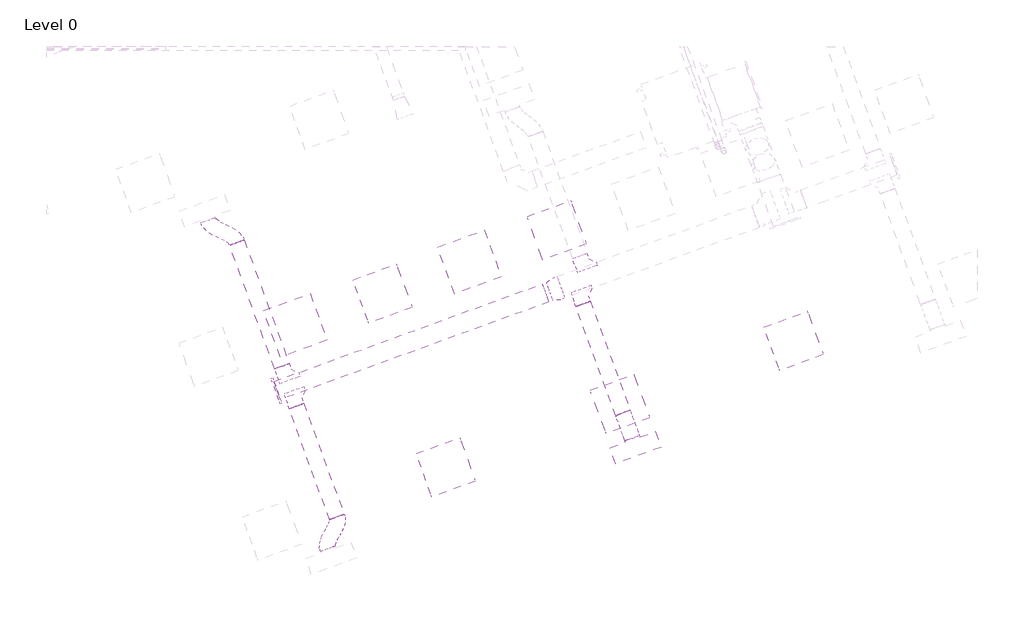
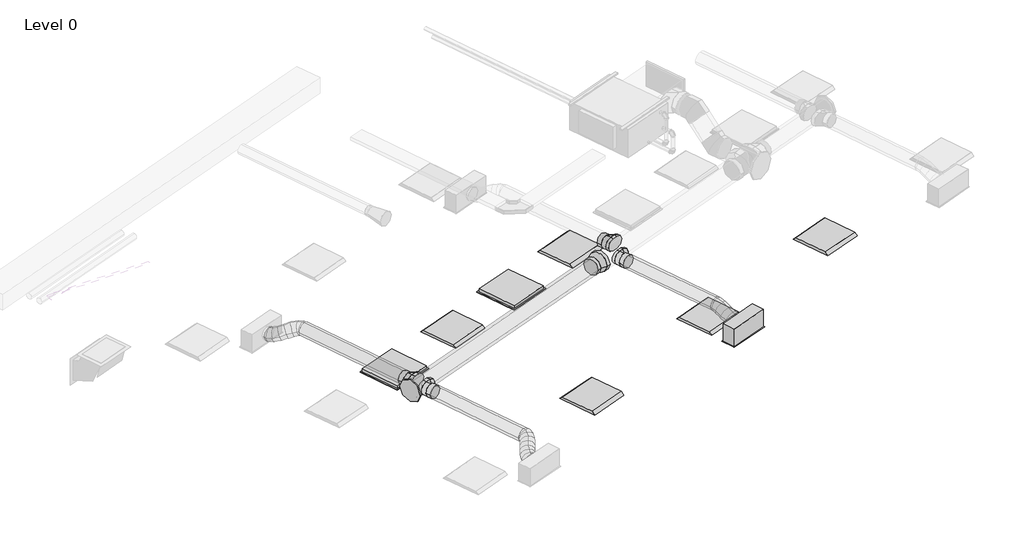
# One storey, part 20 of 34: 7 duct segments, 6 duct fittings, 5 light fixtures, 3 air terminals.
"""IFC4 building model written with IfcOpenShell, lengths in millimetres."""

from ifc_helpers import new_model, si_unit, point, frame, frame_2d, origin, place, context, project, spatial, circle_curve, ellipse_curve, trimmed, segment, composite_curve, outline, extrude, transform, mapped, element, save
from ifc_brep_helpers import plane_surface, cylinder_surface, advanced_brep
from components import return_grille_rectangular_hosted_standard_7b12617c, supply_diffuser_with_plenum_linear_slot_hosted_8e4f2f20, dw144_round_blank_end_standard_9aa061e7, dw144_round_shoe_branch_slip_joint1_standard_2_15a2edd8, dw144_round_shoe_branch_slip_joint1_standard_2_559552f4, dw144_round_shoe_branch_slip_joint1_standard_2_3a899113, dw144_round_taper_slip_joint_standard_7b2c0993, light_fixture_1c7c1157, light_fixture_b730b5ca

model = new_model("IFC4")

# Units and contexts
model_context = context("Model", 3, world=origin())
ifc_project = project(units=[si_unit("LENGTHUNIT", "METRE", prefix="MILLI")], contexts=[model_context])

# Site, building, storey
site = spatial("IfcSite", under=ifc_project)
building = spatial("IfcBuilding", under=site)
storey = spatial("IfcBuildingStorey", under=building, Name="Level 0", Elevation=0.0)

# Air terminals
placement = place(None, origin())
return_grille_rectangular_hosted_standard_shape = return_grille_rectangular_hosted_standard_7b12617c(model_context)
element("IfcAirTerminal", 1, ObjectType="Return Grille - Rectangular - Hosted : Standard", at=placement, inside=storey, context=model_context, shape_type="MappedRepresentation", body=[
    mapped(return_grille_rectangular_hosted_standard_shape, transform((43552.4694696, 7593.8200472, 2800.0), x_axis=(0.939692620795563, 0.34202014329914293, 0.0), y_axis=(0.34202014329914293, -0.939692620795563, 0.0), z_axis=(0.0, 0.0, -1.0))),
])
element("IfcAirTerminal", 2, ObjectType="Return Grille - Rectangular - Hosted : Standard", at=placement, inside=storey, context=model_context, shape_type="MappedRepresentation", body=[
    mapped(return_grille_rectangular_hosted_standard_shape, transform((41292.9785622, 6771.4326123, 2800.0), x_axis=(0.939692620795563, 0.34202014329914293, 0.0), y_axis=(0.34202014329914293, -0.939692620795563, 0.0), z_axis=(0.0, 0.0, -1.0))),
])
supply_diffuser_with_plenum_linear_slot_hosted_shape = supply_diffuser_with_plenum_linear_slot_hosted_8e4f2f20(model_context)
element("IfcAirTerminal", 3, ObjectType="Supply Diffuser with Plenum - Linear Slot - Hosted : 24\" x 8\"-200 In Inlet  4-Slot", at=placement, inside=storey, context=model_context, shape_type="MappedRepresentation", body=[
    mapped(supply_diffuser_with_plenum_linear_slot_hosted_shape, transform((45706.1610442, 5185.1663567, 2800.0), x_axis=(-0.9396926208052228, -0.34202014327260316, 0.0), y_axis=(-0.34202014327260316, 0.9396926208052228, 0.0), z_axis=(0.0, 0.0, -1.0))),
])

# Duct fittings
dw144_round_blank_end_standard_shape = dw144_round_blank_end_standard_9aa061e7(model_context)
element("IfcDuctFitting", 4, ObjectType="DW144 Round Blank End : Standard", at=placement, inside=storey, context=model_context, shape_type="MappedRepresentation", body=[
    mapped(dw144_round_blank_end_standard_shape, transform((41058.5733499, 5925.2041513, 3072.2088531), x_axis=(-0.9396926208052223, -0.3420201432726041, 0.0), y_axis=(0.3420201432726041, -0.9396926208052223, 0.0), z_axis=(0.0, 0.0, 1.0))),
])
dw144_round_shoe_branch_slip_joint1_standard_2_shape = dw144_round_shoe_branch_slip_joint1_standard_2_15a2edd8(model_context)
element("IfcDuctFitting", 5, ObjectType="DW144 Round Shoe Branch - Slip Joint1 : Standard 2", at=placement, inside=storey, context=model_context, shape_type="MappedRepresentation", body=[
    mapped(dw144_round_shoe_branch_slip_joint1_standard_2_shape, transform((41257.502944, 5864.5863807, 3072.2088531), x_axis=(0.3420201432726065, -0.9396926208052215, 0.0), y_axis=(-0.9396926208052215, -0.3420201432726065, 0.0), z_axis=(0.0, 0.0, -1.0))),
])
dw144_round_shoe_branch_slip_joint1_standard_2_2_shape = dw144_round_shoe_branch_slip_joint1_standard_2_559552f4(model_context)
element("IfcDuctFitting", 6, ObjectType="DW144 Round Shoe Branch - Slip Joint1 : Standard 2", at=placement, inside=storey, context=model_context, shape_type="MappedRepresentation", body=[
    mapped(dw144_round_shoe_branch_slip_joint1_standard_2_2_shape, transform((41171.9979082, 6099.5095359, 3072.2088531), x_axis=(-0.34202014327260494, 0.9396926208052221, 0.0), y_axis=(0.9396926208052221, 0.34202014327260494, 0.0), z_axis=(0.0, 0.0, -1.0))),
])
dw144_round_shoe_branch_slip_joint1_standard_2_3_shape = dw144_round_shoe_branch_slip_joint1_standard_2_3a899113(model_context)
element("IfcDuctFitting", 7, ObjectType="DW144 Round Shoe Branch - Slip Joint1 : Standard 2", at=placement, inside=storey, context=model_context, shape_type="MappedRepresentation", body=[
    mapped(dw144_round_shoe_branch_slip_joint1_standard_2_3_shape, transform((45034.2380322, 7531.8544227, 3072.2088531), x_axis=(-0.342020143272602, 0.9396926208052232, 0.0), y_axis=(-0.9396926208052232, -0.342020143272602, 0.0), z_axis=(0.0, 0.0, 1.0))),
])
element("IfcDuctFitting", 8, ObjectType="DW144 Round Shoe Branch - Slip Joint1 : Standard 2", at=placement, inside=storey, context=model_context, shape_type="MappedRepresentation", body=[
    mapped(dw144_round_shoe_branch_slip_joint1_standard_2_3_shape, transform((44975.9560198, 7191.3881733, 3072.2088531), x_axis=(0.34202014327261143, -0.9396926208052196, 0.0), y_axis=(-0.9396926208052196, -0.34202014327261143, 0.0), z_axis=(0.0, 0.0, -1.0))),
])
dw144_round_taper_slip_joint_standard_shape = dw144_round_taper_slip_joint_standard_7b2c0993(model_context)
element("IfcDuctFitting", 9, ObjectType="DW144 Round Taper - Slip Joint : Standard", at=placement, inside=storey, context=model_context, shape_type="MappedRepresentation", body=[
    mapped(dw144_round_taper_slip_joint_standard_shape, transform((44738.6405983, 7264.6390896, 3072.2088531), x_axis=(-0.9396926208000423, -0.3420201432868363, 0.0), y_axis=(0.3420201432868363, -0.9396926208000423, 0.0), z_axis=(0.0, 0.0, 1.0))),
])

# Duct segments
element("IfcDuctSegment", 10, ObjectType="DW144 Segmented Bend / Shoe Branch", at=placement, inside=storey, context=model_context, shape_type="SweptSolid", body=[
    extrude(outline(composite_curve([segment(trimmed(circle_curve(frame_2d((0.0, -125.0)), 125.0), [point((-125.0, -125.0))], [point((0.0, 0.0))], False, "CARTESIAN"), True, "CONTINUOUS"), segment(trimmed(circle_curve(frame_2d((0.0, -125.0)), 125.0), [point((0.0, 0.0))], [point((125.0, -125.0))], False, "CARTESIAN"), True, "CONTINUOUS"), segment(trimmed(circle_curve(frame_2d((0.0, -125.0)), 125.0), [point((125.0, -125.0))], [point((0.0, -250.0))], False, "CARTESIAN"), True, "CONTINUOUS"), segment(trimmed(circle_curve(frame_2d((0.0, -125.0)), 125.0), [point((0.0, -250.0))], [point((-125.0, -125.0))], False, "CARTESIAN"), True, "CONTINUOUS")], self_intersect=False)), frame((41058.5733499, 5925.2041513, 2947.2088531), z_axis=(0.9396926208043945, 0.34202014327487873, 0.0), x_axis=(0.34202014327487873, -0.9396926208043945, 0.0)), (0.0, 0.0, 1.0), 3702.9444966),
])
element("IfcDuctSegment", 11, ObjectType="DW144 Segmented Bend / Shoe Branch", at=placement, inside=storey, context=model_context, shape_type="SweptSolid", body=[
    extrude(outline(composite_curve([segment(trimmed(circle_curve(frame_2d((0.0, 100.0)), 100.0), [point((100.0, 100.0))], [point((0.0, 0.0))], False, "CARTESIAN"), True, "CONTINUOUS"), segment(trimmed(circle_curve(frame_2d((0.0, 100.0)), 100.0), [point((0.0, 0.0))], [point((-99.9999999, 100.0))], False, "CARTESIAN"), True, "CONTINUOUS"), segment(trimmed(circle_curve(frame_2d((0.0, 100.0)), 100.0), [point((-99.9999999, 100.0))], [point((0.0, 200.0))], False, "CARTESIAN"), True, "CONTINUOUS"), segment(trimmed(circle_curve(frame_2d((0.0, 100.0)), 100.0), [point((0.0, 200.0))], [point((100.0, 100.0))], False, "CARTESIAN"), True, "CONTINUOUS")], self_intersect=False)), frame((45542.5721876, 5634.6230463, 3172.2088531), z_axis=(-0.3420201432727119, 0.9396926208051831, 0.0), x_axis=(0.9396926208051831, 0.3420201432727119, 0.0)), (0.0, 0.0, 1.0), 1506.6748451),
])
element("IfcDuctSegment", 12, ObjectType="DW144 Segmented Bend / Shoe Branch", at=placement, inside=storey, context=model_context, shape_type="SweptSolid", body=[
    extrude(outline(composite_curve([segment(trimmed(circle_curve(frame_2d((0.0, 100.0)), 100.0), [point((100.0, 100.0))], [point((0.0, 0.0))], False, "CARTESIAN"), True, "CONTINUOUS"), segment(trimmed(circle_curve(frame_2d((0.0, 100.0)), 100.0), [point((0.0, 0.0))], [point((-100.0, 100.0))], False, "CARTESIAN"), True, "CONTINUOUS"), segment(trimmed(circle_curve(frame_2d((0.0, 100.0)), 100.0), [point((-100.0, 100.0))], [point((0.0, 200.0))], False, "CARTESIAN"), True, "CONTINUOUS"), segment(trimmed(circle_curve(frame_2d((0.0, 100.0)), 100.0), [point((0.0, 200.0))], [point((100.0, 100.0))], False, "CARTESIAN"), True, "CONTINUOUS")], self_intersect=False)), frame((41832.6696155, 4284.328938, 3172.2088531), z_axis=(-0.3420201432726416, 0.9396926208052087, 0.0), x_axis=(0.9396926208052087, 0.3420201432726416, 0.0)), (0.0, 0.0, 1.0), 1531.6748453),
])
element("IfcDuctSegment", 13, ObjectType="DW144 Segmented Bend / Shoe Branch", at=placement, inside=storey, context=model_context, shape_type="SweptSolid", body=[
    extrude(outline(composite_curve([segment(trimmed(circle_curve(frame_2d((0.0, -100.0)), 100.0), [point((-100.0, -100.0))], [point((0.0, 0.0))], False, "CARTESIAN"), True, "CONTINUOUS"), segment(trimmed(circle_curve(frame_2d((0.0, -100.0)), 100.0), [point((0.0, 0.0))], [point((100.0, -100.0))], False, "CARTESIAN"), True, "CONTINUOUS"), segment(trimmed(circle_curve(frame_2d((0.0, -100.0)), 100.0), [point((100.0, -100.0))], [point((0.0, -200.0))], False, "CARTESIAN"), True, "CONTINUOUS"), segment(trimmed(circle_curve(frame_2d((0.0, -100.0)), 100.0), [point((0.0, -200.0))], [point((-100.0, -100.0))], False, "CARTESIAN"), True, "CONTINUOUS")], self_intersect=False)), frame((41120.6948867, 6240.463429, 2972.2088531), z_axis=(-0.34202014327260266, 0.9396926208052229, 0.0), x_axis=(0.9396926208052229, 0.34202014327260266, 0.0)), (0.0, 0.0, 1.0), 1708.3251547),
])
element("IfcDuctSegment", 14, ObjectType="Flex - Round", at=placement, inside=storey, context=model_context, shape_type="AdvancedBrep", body=[
    advanced_brep(
    [(45636.5414497, 5668.8250606, 3072.2088531), (45542.5721876, 5634.6230463, 2972.2088531), (45448.6029256, 5600.4210319, 3072.2088531), (45542.5721876, 5634.6230463, 3172.2088531), (45643.456652, 5649.8256986, 3072.2088531), (45545.0000927, 5627.952432, 2972.2088531), (45455.5181278, 5581.4216699, 3072.2088531), (45553.9746871, 5603.2949365, 3172.2088531), (45756.0439098, 5340.4947498, 2954.4), (45662.0746478, 5306.2927355, 3054.4), (45568.1053857, 5272.0907211, 2954.4), (45662.0746478, 5306.2927355, 2854.4), (45667.0367565, 5585.039894, 3053.8012198), (45561.2417272, 5583.3289079, 2959.5299419), (45479.0982323, 5516.6358653, 3053.8012198), (45584.8932616, 5518.3468513, 3148.0724978), (45696.2926798, 5504.6599052, 3013.3044266), (45587.6883456, 5510.6674209, 2922.9218599), (45508.3541556, 5436.2558765, 3013.3044266), (45616.9584898, 5430.2483608, 3103.6869932), (45725.5486031, 5424.2799164, 2972.8076333), (45619.7535738, 5422.5689304, 2878.5363553), (45537.610079, 5355.8758878, 2972.8076333), (45643.4051082, 5357.5868738, 3067.0789113), (45749.1287076, 5359.4941118, 2954.4), (45650.6721483, 5337.6208453, 2854.4), (45561.1901834, 5291.0900832, 2954.4), (45659.6467427, 5312.9633498, 3054.4)],
    [
        (0, 1, circle_curve(frame((45542.5721876, 5634.6230463, 3072.2088531), z_axis=(-0.3420201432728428, 0.9396926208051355, 0.0), x_axis=(0.9396926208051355, 0.3420201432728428, 0.0)), 100.0)),
        (1, 2, circle_curve(frame((45542.5721876, 5634.6230463, 3072.2088531), z_axis=(-0.3420201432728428, 0.9396926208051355, 0.0), x_axis=(0.9396926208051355, 0.3420201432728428, 0.0)), 100.0)),
        (2, 3, circle_curve(frame((45542.5721876, 5634.6230463, 3072.2088531), z_axis=(-0.3420201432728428, 0.9396926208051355, 0.0), x_axis=(0.9396926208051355, 0.3420201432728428, 0.0)), 100.0)),
        (3, 0, circle_curve(frame((45542.5721876, 5634.6230463, 3072.2088531), z_axis=(-0.3420201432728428, 0.9396926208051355, 0.0), x_axis=(0.9396926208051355, 0.3420201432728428, 0.0)), 100.0)),
        (0, 4),
        (4, 5, ellipse_curve(frame((45549.4873899, 5615.6236842, 3072.2088531), z_axis=(-0.33911394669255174, 0.9317079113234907, 0.1300849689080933), x_axis=(-0.04449167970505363, 0.12223988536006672, -0.9915028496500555)), 100.8569971, 100.0)),
        (5, 1),
        (5, 6, ellipse_curve(frame((45549.4873899, 5615.6236842, 3072.2088531), z_axis=(-0.33911394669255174, 0.9317079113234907, 0.1300849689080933), x_axis=(-0.04449167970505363, 0.12223988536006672, -0.9915028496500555)), 100.8569971, 100.0)),
        (6, 2),
        (6, 7, ellipse_curve(frame((45549.4873899, 5615.6236842, 3072.2088531), z_axis=(-0.33911394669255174, 0.9317079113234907, 0.1300849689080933), x_axis=(-0.04449167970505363, 0.12223988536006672, -0.9915028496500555)), 100.8569971, 100.0)),
        (7, 3),
        (7, 4, ellipse_curve(frame((45549.4873899, 5615.6236842, 3072.2088531), z_axis=(-0.33911394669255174, 0.9317079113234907, 0.1300849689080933), x_axis=(-0.04449167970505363, 0.12223988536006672, -0.9915028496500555)), 100.8569971, 100.0)),
        (8, 9, circle_curve(frame((45662.0746478, 5306.2927355, 2954.4), z_axis=(0.3420201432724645, -0.9396926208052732, 0.0), x_axis=(0.9396926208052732, 0.3420201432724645, 0.0)), 100.0)),
        (9, 10, circle_curve(frame((45662.0746478, 5306.2927355, 2954.4), z_axis=(0.3420201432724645, -0.9396926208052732, 0.0), x_axis=(0.9396926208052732, 0.3420201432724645, 0.0)), 100.0)),
        (10, 11, circle_curve(frame((45662.0746478, 5306.2927355, 2954.4), z_axis=(0.3420201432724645, -0.9396926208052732, 0.0), x_axis=(0.9396926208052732, 0.3420201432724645, 0.0)), 100.0)),
        (11, 8, circle_curve(frame((45662.0746478, 5306.2927355, 2954.4), z_axis=(0.3420201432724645, -0.9396926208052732, 0.0), x_axis=(0.9396926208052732, 0.3420201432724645, 0.0)), 100.0)),
        (4, 12),
        (12, 13, ellipse_curve(frame((45573.0674944, 5550.8378796, 3053.8012198), z_axis=(-0.32110349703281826, 0.8822246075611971, 0.34434326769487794), x_axis=(-0.1177723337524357, 0.32357682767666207, -0.9388438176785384)), 100.4120986, 100.0)),
        (13, 5),
        (13, 14, ellipse_curve(frame((45573.0674944, 5550.8378796, 3053.8012198), z_axis=(-0.32110349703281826, 0.8822246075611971, 0.34434326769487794), x_axis=(-0.1177723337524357, 0.32357682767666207, -0.9388438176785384)), 100.4120986, 100.0)),
        (14, 6),
        (14, 15, ellipse_curve(frame((45573.0674944, 5550.8378796, 3053.8012198), z_axis=(-0.32110349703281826, 0.8822246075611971, 0.34434326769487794), x_axis=(-0.1177723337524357, 0.32357682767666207, -0.9388438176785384)), 100.4120986, 100.0)),
        (15, 7),
        (15, 12, ellipse_curve(frame((45573.0674944, 5550.8378796, 3053.8012198), z_axis=(-0.32110349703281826, 0.8822246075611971, 0.34434326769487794), x_axis=(-0.1177723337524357, 0.32357682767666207, -0.9388438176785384)), 100.4120986, 100.0)),
        (12, 16),
        (16, 17, circle_curve(frame((45602.3234177, 5470.4578909, 3013.3044266), z_axis=(-0.30912658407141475, 0.8493183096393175, 0.42790088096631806), x_axis=(0.9396926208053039, 0.3420201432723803, 0.0)), 100.0)),
        (17, 13),
        (17, 18, circle_curve(frame((45602.3234177, 5470.4578909, 3013.3044266), z_axis=(-0.30912658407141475, 0.8493183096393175, 0.42790088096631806), x_axis=(0.9396926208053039, 0.3420201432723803, 0.0)), 100.0)),
        (18, 14),
        (18, 19, circle_curve(frame((45602.3234177, 5470.4578909, 3013.3044266), z_axis=(-0.30912658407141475, 0.8493183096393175, 0.42790088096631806), x_axis=(0.9396926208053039, 0.3420201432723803, 0.0)), 100.0)),
        (19, 15),
        (19, 16, circle_curve(frame((45602.3234177, 5470.4578909, 3013.3044266), z_axis=(-0.30912658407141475, 0.8493183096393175, 0.42790088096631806), x_axis=(0.9396926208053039, 0.3420201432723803, 0.0)), 100.0)),
        (16, 20),
        (20, 21, ellipse_curve(frame((45631.579341, 5390.0779021, 2972.8076333), z_axis=(-0.3211034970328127, 0.8822246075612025, 0.34434326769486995), x_axis=(0.11777233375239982, -0.3235768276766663, 0.9388438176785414)), 100.4120986, 100.0)),
        (21, 17),
        (21, 22, ellipse_curve(frame((45631.579341, 5390.0779021, 2972.8076333), z_axis=(-0.3211034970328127, 0.8822246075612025, 0.34434326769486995), x_axis=(0.11777233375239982, -0.3235768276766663, 0.9388438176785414)), 100.4120986, 100.0)),
        (22, 18),
        (22, 23, ellipse_curve(frame((45631.579341, 5390.0779021, 2972.8076333), z_axis=(-0.3211034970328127, 0.8822246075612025, 0.34434326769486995), x_axis=(0.11777233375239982, -0.3235768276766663, 0.9388438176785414)), 100.4120986, 100.0)),
        (23, 19),
        (23, 20, ellipse_curve(frame((45631.579341, 5390.0779021, 2972.8076333), z_axis=(-0.3211034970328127, 0.8822246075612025, 0.34434326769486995), x_axis=(0.11777233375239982, -0.3235768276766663, 0.9388438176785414)), 100.4120986, 100.0)),
        (20, 24),
        (24, 25, ellipse_curve(frame((45655.1594455, 5325.2920975, 2954.4), z_axis=(-0.33911394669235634, 0.9317079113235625, 0.13008496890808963), x_axis=(0.04449167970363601, -0.12223988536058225, 0.9915028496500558)), 100.8569971, 100.0)),
        (25, 21),
        (25, 26, ellipse_curve(frame((45655.1594455, 5325.2920975, 2954.4), z_axis=(-0.33911394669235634, 0.9317079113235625, 0.13008496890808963), x_axis=(0.04449167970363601, -0.12223988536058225, 0.9915028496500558)), 100.8569971, 100.0)),
        (26, 22),
        (26, 27, ellipse_curve(frame((45655.1594455, 5325.2920975, 2954.4), z_axis=(-0.33911394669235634, 0.9317079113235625, 0.13008496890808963), x_axis=(0.04449167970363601, -0.12223988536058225, 0.9915028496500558)), 100.8569971, 100.0)),
        (27, 23),
        (27, 24, ellipse_curve(frame((45655.1594455, 5325.2920975, 2954.4), z_axis=(-0.33911394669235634, 0.9317079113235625, 0.13008496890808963), x_axis=(0.04449167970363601, -0.12223988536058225, 0.9915028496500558)), 100.8569971, 100.0)),
        (24, 8),
        (11, 25),
        (10, 26),
        (9, 27),
    ],
    [
        plane_surface(frame((45542.5721876, 5634.6230463, 2972.2088531), z_axis=(-0.34202014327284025, 0.9396926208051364, 0.0), x_axis=(0.9396926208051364, 0.34202014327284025, 0.0))),
        cylinder_surface(frame((45542.5721876, 5634.6230463, 3072.2088531), z_axis=(-0.3420201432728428, 0.9396926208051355, 0.0), x_axis=(0.9396926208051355, 0.3420201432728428, 0.0)), 100.0),
        plane_surface(frame((45662.0746478, 5306.2927355, 2854.4), z_axis=(0.34202014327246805, -0.9396926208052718, 0.0), x_axis=(0.9396926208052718, 0.34202014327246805, 0.0))),
        cylinder_surface(frame((45549.4873899, 5615.6236842, 3072.2088531), z_axis=(-0.33044474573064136, 0.9078894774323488, 0.25795923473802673), x_axis=(0.9396926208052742, 0.3420201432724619, 0.0)), 100.0),
        cylinder_surface(frame((45573.0674944, 5550.8378796, 3053.8012198), z_axis=(-0.30912658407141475, 0.8493183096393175, 0.42790088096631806), x_axis=(0.9396926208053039, 0.3420201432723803, 0.0)), 100.0),
        cylinder_surface(frame((45602.3234177, 5470.4578909, 3013.3044266), z_axis=(-0.3091265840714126, 0.8493183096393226, 0.4279008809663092), x_axis=(0.9396926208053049, 0.342020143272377, 0.0)), 100.0),
        cylinder_surface(frame((45631.579341, 5390.0779021, 2972.8076333), z_axis=(-0.33044474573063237, 0.9078894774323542, 0.25795923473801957), x_axis=(0.9396926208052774, 0.34202014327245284, 0.0)), 100.0),
        cylinder_surface(frame((45655.1594455, 5325.2920975, 2954.4), z_axis=(-0.3420201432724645, 0.9396926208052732, 0.0), x_axis=(0.9396926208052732, 0.3420201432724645, 0.0)), 100.0),
    ],
    [
        (0, [[1, 2, 3, 4]]),
        (1, [[-1, 5, 6, 7]]),
        (1, [[-2, -7, 8, 9]]),
        (1, [[-3, -9, 10, 11]]),
        (1, [[-4, -11, 12, -5]]),
        (2, [[13, 14, 15, 16]]),
        (3, [[-6, 17, 18, 19]]),
        (3, [[-8, -19, 20, 21]]),
        (3, [[-10, -21, 22, 23]]),
        (3, [[-12, -23, 24, -17]]),
        (4, [[-18, 25, 26, 27]]),
        (4, [[-20, -27, 28, 29]]),
        (4, [[-22, -29, 30, 31]]),
        (4, [[-24, -31, 32, -25]]),
        (5, [[-26, 33, 34, 35]]),
        (5, [[-28, -35, 36, 37]]),
        (5, [[-30, -37, 38, 39]]),
        (5, [[-32, -39, 40, -33]]),
        (6, [[-34, 41, 42, 43]]),
        (6, [[-36, -43, 44, 45]]),
        (6, [[-38, -45, 46, 47]]),
        (6, [[-40, -47, 48, -41]]),
        (7, [[-42, 49, -16, 50]]),
        (7, [[-44, -50, -15, 51]]),
        (7, [[-46, -51, -14, 52]]),
        (7, [[-48, -52, -13, -49]]),
    ],
),
])
element("IfcDuctSegment", 15, ObjectType="Flex - Round", at=placement, inside=storey, context=model_context, shape_type="AdvancedBrep", body=[
    advanced_brep(
    [(41926.6388776, 4318.5309523, 3072.2088531), (41832.6696155, 4284.328938, 2972.2088531), (41738.7003534, 4250.1269236, 3072.2088531), (41832.6696155, 4284.328938, 3172.2088531), (41941.143002, 4278.6811981, 3072.2088531), (41837.6192575, 4270.7299085, 2972.2088531), (41740.1829281, 4246.0535833, 3072.2088531), (41843.7066726, 4254.0048729, 3172.2088531), (41809.3349025, 3904.0101478, 2954.4), (41715.3656405, 3869.8081335, 3054.4), (41621.3963784, 3835.6061192, 2954.4), (41715.3656405, 3869.8081335, 2854.4), (41939.1022554, 4210.6437498, 3060.4338405), (41836.9135433, 4247.201759, 2968.1369153), (41739.9616616, 4238.6766735, 3070.9321561), (41842.1503737, 4202.1186642, 3163.2290813), (41916.7633672, 4131.704107, 3037.9988054), (41822.7649647, 4197.2044749, 2953.927441), (41728.7851284, 4199.1818007, 3059.7075189), (41822.7835309, 4133.6814328, 3143.7788832), (41880.4675155, 4062.5309182, 3010.9941094), (41794.3438119, 4143.0390077, 2932.7816474), (41703.2214942, 4150.4622362, 3040.6877649), (41789.3451977, 4069.9541467, 3118.9002269), (41844.8137618, 4003.6748353, 2985.9210882), (41758.6900582, 4084.1829248, 2907.7086262), (41667.5677405, 4091.6061533, 3015.6147437), (41753.691444, 4011.0980638, 3093.8272057), (41819.2501276, 3954.9552708, 2966.9013343), (41725.2517251, 4020.4556387, 2882.8299699), (41631.2718888, 4022.4329645, 2988.6100477), (41725.2702913, 3956.9325966, 3072.6814121), (41808.0735943, 3915.460398, 2955.676697), (41705.8848823, 3952.0184073, 2863.3797719), (41608.9330006, 3943.4933217, 2966.1750127), (41711.1217127, 3906.9353124, 3058.4719378), (41807.8523279, 3908.0834882, 2954.4), (41704.3285834, 3900.1321986, 2854.4), (41606.892254, 3875.4558734, 2954.4), (41710.4159985, 3883.407163, 3054.4)],
    [
        (0, 1, circle_curve(frame((41832.6696155, 4284.328938, 3072.2088531), z_axis=(-0.34202014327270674, 0.939692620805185, 0.0), x_axis=(0.939692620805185, 0.34202014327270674, 0.0)), 100.0)),
        (1, 2, circle_curve(frame((41832.6696155, 4284.328938, 3072.2088531), z_axis=(-0.34202014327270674, 0.939692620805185, 0.0), x_axis=(0.939692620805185, 0.34202014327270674, 0.0)), 100.0)),
        (2, 3, circle_curve(frame((41832.6696155, 4284.328938, 3072.2088531), z_axis=(-0.34202014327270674, 0.939692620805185, 0.0), x_axis=(0.939692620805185, 0.34202014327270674, 0.0)), 100.0)),
        (3, 0, circle_curve(frame((41832.6696155, 4284.328938, 3072.2088531), z_axis=(-0.34202014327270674, 0.939692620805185, 0.0), x_axis=(0.939692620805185, 0.34202014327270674, 0.0)), 100.0)),
        (0, 4),
        (4, 5, ellipse_curve(frame((41840.662965, 4262.3673907, 3072.2088531), z_axis=(-0.15965125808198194, 0.9833243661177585, 0.08708999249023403), x_axis=(-0.9034059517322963, -0.10996973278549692, -0.4144446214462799)), 102.1840203, 100.0)),
        (5, 1),
        (5, 6, ellipse_curve(frame((41840.662965, 4262.3673907, 3072.2088531), z_axis=(-0.15965125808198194, 0.9833243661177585, 0.08708999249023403), x_axis=(-0.9034059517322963, -0.10996973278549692, -0.4144446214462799)), 102.1840203, 100.0)),
        (6, 2),
        (6, 7, ellipse_curve(frame((41840.662965, 4262.3673907, 3072.2088531), z_axis=(-0.15965125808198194, 0.9833243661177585, 0.08708999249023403), x_axis=(-0.9034059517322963, -0.10996973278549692, -0.4144446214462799)), 102.1840203, 100.0)),
        (7, 3),
        (7, 4, ellipse_curve(frame((41840.662965, 4262.3673907, 3072.2088531), z_axis=(-0.15965125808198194, 0.9833243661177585, 0.08708999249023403), x_axis=(-0.9034059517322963, -0.10996973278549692, -0.4144446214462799)), 102.1840203, 100.0)),
        (8, 9, circle_curve(frame((41715.3656405, 3869.8081335, 2954.4), z_axis=(0.34202014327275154, -0.9396926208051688, 0.0), x_axis=(0.9396926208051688, 0.34202014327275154, 0.0)), 100.0)),
        (9, 10, circle_curve(frame((41715.3656405, 3869.8081335, 2954.4), z_axis=(0.34202014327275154, -0.9396926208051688, 0.0), x_axis=(0.9396926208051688, 0.34202014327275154, 0.0)), 100.0)),
        (10, 11, circle_curve(frame((41715.3656405, 3869.8081335, 2954.4), z_axis=(0.34202014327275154, -0.9396926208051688, 0.0), x_axis=(0.9396926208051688, 0.34202014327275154, 0.0)), 100.0)),
        (11, 8, circle_curve(frame((41715.3656405, 3869.8081335, 2954.4), z_axis=(0.34202014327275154, -0.9396926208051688, 0.0), x_axis=(0.9396926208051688, 0.34202014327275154, 0.0)), 100.0)),
        (4, 12),
        (12, 13, ellipse_curve(frame((41839.5319585, 4224.6602116, 3065.6829983), z_axis=(0.1473216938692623, 0.9645524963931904, 0.2189401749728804), x_axis=(-0.9054982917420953, 0.2205870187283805, -0.3625109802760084)), 100.8388548, 100.0)),
        (13, 5),
        (13, 14, ellipse_curve(frame((41839.5319585, 4224.6602116, 3065.6829983), z_axis=(0.1473216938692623, 0.9645524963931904, 0.2189401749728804), x_axis=(-0.9054982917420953, 0.2205870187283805, -0.3625109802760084)), 100.8388548, 100.0)),
        (14, 6),
        (14, 15, ellipse_curve(frame((41839.5319585, 4224.6602116, 3065.6829983), z_axis=(0.1473216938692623, 0.9645524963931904, 0.2189401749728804), x_axis=(-0.9054982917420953, 0.2205870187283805, -0.3625109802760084)), 100.8388548, 100.0)),
        (15, 7),
        (15, 12, ellipse_curve(frame((41839.5319585, 4224.6602116, 3065.6829983), z_axis=(0.1473216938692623, 0.9645524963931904, 0.2189401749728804), x_axis=(-0.9054982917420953, 0.2205870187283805, -0.3625109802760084)), 100.8388548, 100.0)),
        (12, 16),
        (16, 17, ellipse_curve(frame((41822.7742478, 4165.4429538, 3048.8531621), z_axis=(0.35281242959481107, 0.8873517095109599, 0.2968675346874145), x_axis=(-0.846849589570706, 0.43775232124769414, -0.3020243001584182)), 100.5473433, 100.0)),
        (17, 13),
        (17, 18, ellipse_curve(frame((41822.7742478, 4165.4429538, 3048.8531621), z_axis=(0.35281242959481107, 0.8873517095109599, 0.2968675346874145), x_axis=(-0.846849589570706, 0.43775232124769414, -0.3020243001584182)), 100.5473433, 100.0)),
        (18, 14),
        (18, 19, ellipse_curve(frame((41822.7742478, 4165.4429538, 3048.8531621), z_axis=(0.35281242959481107, 0.8873517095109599, 0.2968675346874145), x_axis=(-0.846849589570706, 0.43775232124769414, -0.3020243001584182)), 100.5473433, 100.0)),
        (19, 15),
        (19, 16, ellipse_curve(frame((41822.7742478, 4165.4429538, 3048.8531621), z_axis=(0.35281242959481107, 0.8873517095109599, 0.2968675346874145), x_axis=(-0.846849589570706, 0.43775232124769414, -0.3020243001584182)), 100.5473433, 100.0)),
        (16, 20),
        (20, 21, ellipse_curve(frame((41791.8445048, 4106.4965772, 3025.8409372), z_axis=(0.46318514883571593, 0.820636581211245, 0.33468659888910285), x_axis=(-0.7918903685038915, 0.5527890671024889, -0.25948774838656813)), 100.045353, 100.0)),
        (21, 17),
        (21, 22, ellipse_curve(frame((41791.8445048, 4106.4965772, 3025.8409372), z_axis=(0.46318514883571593, 0.820636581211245, 0.33468659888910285), x_axis=(-0.7918903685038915, 0.5527890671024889, -0.25948774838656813)), 100.045353, 100.0)),
        (22, 18),
        (22, 23, ellipse_curve(frame((41791.8445048, 4106.4965772, 3025.8409372), z_axis=(0.46318514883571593, 0.820636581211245, 0.33468659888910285), x_axis=(-0.7918903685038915, 0.5527890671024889, -0.25948774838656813)), 100.045353, 100.0)),
        (23, 19),
        (23, 20, ellipse_curve(frame((41791.8445048, 4106.4965772, 3025.8409372), z_axis=(0.46318514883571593, 0.820636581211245, 0.33468659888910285), x_axis=(-0.7918903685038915, 0.5527890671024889, -0.25948774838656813)), 100.045353, 100.0)),
        (20, 24),
        (24, 25, ellipse_curve(frame((41756.1907511, 4047.6404943, 3000.767916), z_axis=(0.4631851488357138, 0.8206365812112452, 0.3346865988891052), x_axis=(0.7918903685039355, -0.5527890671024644, 0.2594877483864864)), 100.045353, 100.0)),
        (25, 21),
        (25, 26, ellipse_curve(frame((41756.1907511, 4047.6404943, 3000.767916), z_axis=(0.4631851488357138, 0.8206365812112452, 0.3346865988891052), x_axis=(0.7918903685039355, -0.5527890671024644, 0.2594877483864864)), 100.045353, 100.0)),
        (26, 22),
        (26, 27, ellipse_curve(frame((41756.1907511, 4047.6404943, 3000.767916), z_axis=(0.4631851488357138, 0.8206365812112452, 0.3346865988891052), x_axis=(0.7918903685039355, -0.5527890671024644, 0.2594877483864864)), 100.045353, 100.0)),
        (27, 23),
        (27, 24, ellipse_curve(frame((41756.1907511, 4047.6404943, 3000.767916), z_axis=(0.4631851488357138, 0.8206365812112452, 0.3346865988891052), x_axis=(0.7918903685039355, -0.5527890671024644, 0.2594877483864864)), 100.045353, 100.0)),
        (24, 28),
        (28, 29, ellipse_curve(frame((41725.2610082, 3988.6941176, 2977.755691), z_axis=(0.35281242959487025, 0.887351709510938, 0.29686753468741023), x_axis=(0.8468495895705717, -0.4377523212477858, 0.3020243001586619)), 100.5473433, 100.0)),
        (29, 25),
        (29, 30, ellipse_curve(frame((41725.2610082, 3988.6941176, 2977.755691), z_axis=(0.35281242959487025, 0.887351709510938, 0.29686753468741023), x_axis=(0.8468495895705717, -0.4377523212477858, 0.3020243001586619)), 100.5473433, 100.0)),
        (30, 26),
        (30, 31, ellipse_curve(frame((41725.2610082, 3988.6941176, 2977.755691), z_axis=(0.35281242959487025, 0.887351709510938, 0.29686753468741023), x_axis=(0.8468495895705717, -0.4377523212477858, 0.3020243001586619)), 100.5473433, 100.0)),
        (31, 27),
        (31, 28, ellipse_curve(frame((41725.2610082, 3988.6941176, 2977.755691), z_axis=(0.35281242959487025, 0.887351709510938, 0.29686753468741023), x_axis=(0.8468495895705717, -0.4377523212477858, 0.3020243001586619)), 100.5473433, 100.0)),
        (28, 32),
        (32, 33, ellipse_curve(frame((41708.5032975, 3929.4768599, 2960.9258548), z_axis=(0.14732169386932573, 0.964552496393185, 0.21894017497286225), x_axis=(0.9054982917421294, -0.22058701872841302, 0.36251098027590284)), 100.8388548, 100.0)),
        (33, 29),
        (33, 34, ellipse_curve(frame((41708.5032975, 3929.4768599, 2960.9258548), z_axis=(0.14732169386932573, 0.964552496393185, 0.21894017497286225), x_axis=(0.9054982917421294, -0.22058701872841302, 0.36251098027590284)), 100.8388548, 100.0)),
        (34, 30),
        (34, 35, ellipse_curve(frame((41708.5032975, 3929.4768599, 2960.9258548), z_axis=(0.14732169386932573, 0.964552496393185, 0.21894017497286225), x_axis=(0.9054982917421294, -0.22058701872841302, 0.36251098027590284)), 100.8388548, 100.0)),
        (35, 31),
        (35, 32, ellipse_curve(frame((41708.5032975, 3929.4768599, 2960.9258548), z_axis=(0.14732169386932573, 0.964552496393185, 0.21894017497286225), x_axis=(0.9054982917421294, -0.22058701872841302, 0.36251098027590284)), 100.8388548, 100.0)),
        (32, 36),
        (36, 37, ellipse_curve(frame((41707.372291, 3891.7696808, 2954.4), z_axis=(-0.15965125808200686, 0.9833243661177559, 0.08708999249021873), x_axis=(0.9034059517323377, 0.10996973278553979, 0.4144446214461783)), 102.1840203, 100.0)),
        (37, 33),
        (37, 38, ellipse_curve(frame((41707.372291, 3891.7696808, 2954.4), z_axis=(-0.15965125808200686, 0.9833243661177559, 0.08708999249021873), x_axis=(0.9034059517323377, 0.10996973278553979, 0.4144446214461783)), 102.1840203, 100.0)),
        (38, 34),
        (38, 39, ellipse_curve(frame((41707.372291, 3891.7696808, 2954.4), z_axis=(-0.15965125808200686, 0.9833243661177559, 0.08708999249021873), x_axis=(0.9034059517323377, 0.10996973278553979, 0.4144446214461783)), 102.1840203, 100.0)),
        (39, 35),
        (39, 36, ellipse_curve(frame((41707.372291, 3891.7696808, 2954.4), z_axis=(-0.15965125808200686, 0.9833243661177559, 0.08708999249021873), x_axis=(0.9034059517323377, 0.10996973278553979, 0.4144446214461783)), 102.1840203, 100.0)),
        (36, 8),
        (11, 37),
        (10, 38),
        (9, 39),
    ],
    [
        plane_surface(frame((41832.6696155, 4284.328938, 2972.2088531), z_axis=(-0.3420201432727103, 0.9396926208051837, 0.0), x_axis=(0.9396926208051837, 0.3420201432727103, 0.0))),
        cylinder_surface(frame((41832.6696155, 4284.328938, 3072.2088531), z_axis=(-0.34202014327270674, 0.939692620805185, 0.0), x_axis=(0.939692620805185, 0.34202014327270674, 0.0)), 100.0),
        plane_surface(frame((41715.3656405, 3869.8081335, 2854.4), z_axis=(0.3420201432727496, -0.9396926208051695, 0.0), x_axis=(0.9396926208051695, 0.3420201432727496, 0.0))),
        cylinder_surface(frame((41840.662965, 4262.3673907, 3072.2088531), z_axis=(0.02954220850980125, 0.9849221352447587, 0.17045716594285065), x_axis=(0.99917664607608, -0.024353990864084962, -0.03244862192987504)), 100.0),
        cylinder_surface(frame((41839.5319585, 4224.6602116, 3065.6829983), z_axis=(0.2626501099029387, 0.9281350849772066, 0.26378055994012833), x_axis=(0.9648196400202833, -0.24929802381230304, -0.08350782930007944)), 100.0),
        cylinder_surface(frame((41822.7742478, 4165.4429538, 3048.8531621), z_axis=(0.43913358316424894, 0.8369074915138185, 0.32672243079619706), x_axis=(0.8982124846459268, -0.4168203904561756, -0.13955319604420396)), 100.0),
        cylinder_surface(frame((41791.8445048, 4106.4965772, 3025.8409372), z_axis=(0.48681676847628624, 0.8036216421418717, 0.342347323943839), x_axis=(0.8729466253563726, -0.46158453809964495, -0.15780970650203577)), 100.0),
        cylinder_surface(frame((41756.1907511, 4047.6404943, 3000.767916), z_axis=(0.43913358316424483, 0.8369074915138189, 0.3267224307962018), x_axis=(0.898212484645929, -0.41682039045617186, -0.13955319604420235)), 100.0),
        cylinder_surface(frame((41725.2610082, 3988.6941176, 2977.755691), z_axis=(0.2626501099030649, 0.9281350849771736, 0.2637805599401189), x_axis=(0.964819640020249, -0.2492980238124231, -0.08350782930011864)), 100.0),
        cylinder_surface(frame((41708.5032975, 3929.4768599, 2960.9258548), z_axis=(0.0295422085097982, 0.9849221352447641, 0.17045716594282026), x_axis=(0.9991766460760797, -0.024353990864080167, -0.03244862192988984)), 100.0),
        cylinder_surface(frame((41707.372291, 3891.7696808, 2954.4), z_axis=(-0.34202014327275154, 0.9396926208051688, 0.0), x_axis=(0.9396926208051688, 0.34202014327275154, 0.0)), 100.0),
    ],
    [
        (0, [[1, 2, 3, 4]]),
        (1, [[-1, 5, 6, 7]]),
        (1, [[-2, -7, 8, 9]]),
        (1, [[-3, -9, 10, 11]]),
        (1, [[-4, -11, 12, -5]]),
        (2, [[13, 14, 15, 16]]),
        (3, [[-6, 17, 18, 19]]),
        (3, [[-8, -19, 20, 21]]),
        (3, [[-10, -21, 22, 23]]),
        (3, [[-12, -23, 24, -17]]),
        (4, [[-18, 25, 26, 27]]),
        (4, [[-20, -27, 28, 29]]),
        (4, [[-22, -29, 30, 31]]),
        (4, [[-24, -31, 32, -25]]),
        (5, [[-26, 33, 34, 35]]),
        (5, [[-28, -35, 36, 37]]),
        (5, [[-30, -37, 38, 39]]),
        (5, [[-32, -39, 40, -33]]),
        (6, [[-34, 41, 42, 43]]),
        (6, [[-36, -43, 44, 45]]),
        (6, [[-38, -45, 46, 47]]),
        (6, [[-40, -47, 48, -41]]),
        (7, [[-42, 49, 50, 51]]),
        (7, [[-44, -51, 52, 53]]),
        (7, [[-46, -53, 54, 55]]),
        (7, [[-48, -55, 56, -49]]),
        (8, [[-50, 57, 58, 59]]),
        (8, [[-52, -59, 60, 61]]),
        (8, [[-54, -61, 62, 63]]),
        (8, [[-56, -63, 64, -57]]),
        (9, [[-58, 65, 66, 67]]),
        (9, [[-60, -67, 68, 69]]),
        (9, [[-62, -69, 70, 71]]),
        (9, [[-64, -71, 72, -65]]),
        (10, [[-66, 73, -16, 74]]),
        (10, [[-68, -74, -15, 75]]),
        (10, [[-70, -75, -14, 76]]),
        (10, [[-72, -76, -13, -73]]),
    ],
),
])
element("IfcDuctSegment", 16, ObjectType="Flex - Round", at=placement, inside=storey, context=model_context, shape_type="AdvancedBrep", body=[
    advanced_brep(
    [(40442.4440104, 7811.5619565, 3072.2088531), (40536.4132725, 7845.7639708, 2972.2088531), (40630.3825346, 7879.9659851, 3072.2088531), (40536.4132725, 7845.7639708, 3172.2088531), (40440.1831097, 7817.7737302, 3072.2088531), (40530.9402779, 7860.8008999, 2972.2088531), (40616.0577087, 7919.3231207, 3072.2088531), (40525.3005405, 7876.2959509, 3172.2088531), (40067.8724836, 8103.8779414, 2954.4), (40161.8417457, 8138.0799557, 3054.4), (40255.8110078, 8172.2819701, 2954.4), (40161.8417457, 8138.0799557, 2854.4), (40424.6250544, 7836.2272793, 3068.3248226), (40505.0527895, 7891.5062824, 2965.7461048), (40561.7045524, 7983.7918875, 3058.6397203), (40481.2768173, 7928.5128844, 3161.218438), (40374.6406416, 7870.6346752, 3051.8683365), (40446.3989716, 7931.8813718, 2946.4353701), (40479.159742, 8040.6126405, 3031.4632977), (40407.4014121, 7979.365944, 3136.8962642), (40303.4363459, 7903.8673628, 3025.9022419), (40371.6969294, 7966.7465384, 2919.193751), (40394.8186723, 8079.9765637, 3000.7066112), (40326.5580888, 8017.0973881, 3107.4151021), (40219.0952762, 7943.231286, 2995.1455554), (40290.8536061, 8004.4779826, 2889.7125889), (40323.6143766, 8113.2092513, 2974.7405166), (40251.8560466, 8051.9625547, 3080.1734831), (40136.5504658, 8000.052039, 2967.9691329), (40216.9782009, 8055.3310421, 2865.3904151), (40273.6299638, 8147.6166472, 2958.2840306), (40193.2022287, 8092.3376441, 3060.8627483), (40082.1973095, 8064.5208058, 2954.4), (40172.9544776, 8107.5479756, 2854.4), (40258.0719085, 8166.0701964, 2954.4), (40167.3147403, 8123.0430266, 3054.4)],
    [
        (0, 1, circle_curve(frame((40536.4132725, 7845.7639708, 3072.2088531), z_axis=(0.34202014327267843, -0.9396926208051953, 0.0), x_axis=(-0.9396926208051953, -0.34202014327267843, 0.0)), 100.0)),
        (1, 2, circle_curve(frame((40536.4132725, 7845.7639708, 3072.2088531), z_axis=(0.34202014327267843, -0.9396926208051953, 0.0), x_axis=(-0.9396926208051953, -0.34202014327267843, 0.0)), 100.0)),
        (2, 3, circle_curve(frame((40536.4132725, 7845.7639708, 3072.2088531), z_axis=(0.34202014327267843, -0.9396926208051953, 0.0), x_axis=(-0.9396926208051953, -0.34202014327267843, 0.0)), 100.0)),
        (3, 0, circle_curve(frame((40536.4132725, 7845.7639708, 3072.2088531), z_axis=(0.34202014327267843, -0.9396926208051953, 0.0), x_axis=(-0.9396926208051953, -0.34202014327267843, 0.0)), 100.0)),
        (0, 4),
        (4, 5, ellipse_curve(frame((40528.1204092, 7868.5484254, 3072.2088531), z_axis=(0.49838994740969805, -0.8631674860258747, 0.08092806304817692), x_axis=(-0.7702196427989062, -0.4836962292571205, -0.4156917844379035)), 101.8774467, 100.0)),
        (5, 1),
        (5, 6, ellipse_curve(frame((40528.1204092, 7868.5484254, 3072.2088531), z_axis=(0.49838994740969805, -0.8631674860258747, 0.08092806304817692), x_axis=(-0.7702196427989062, -0.4836962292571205, -0.4156917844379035)), 101.8774467, 100.0)),
        (6, 2),
        (6, 7, ellipse_curve(frame((40528.1204092, 7868.5484254, 3072.2088531), z_axis=(0.49838994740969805, -0.8631674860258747, 0.08092806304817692), x_axis=(-0.7702196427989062, -0.4836962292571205, -0.4156917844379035)), 101.8774467, 100.0)),
        (7, 3),
        (7, 4, ellipse_curve(frame((40528.1204092, 7868.5484254, 3072.2088531), z_axis=(0.49838994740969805, -0.8631674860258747, 0.08092806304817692), x_axis=(-0.7702196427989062, -0.4836962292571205, -0.4156917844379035)), 101.8774467, 100.0)),
        (8, 9, circle_curve(frame((40161.8417457, 8138.0799557, 2954.4), z_axis=(-0.3420201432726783, 0.9396926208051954, 0.0), x_axis=(-0.9396926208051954, -0.3420201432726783, 0.0)), 100.0)),
        (9, 10, circle_curve(frame((40161.8417457, 8138.0799557, 2954.4), z_axis=(-0.3420201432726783, 0.9396926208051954, 0.0), x_axis=(-0.9396926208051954, -0.3420201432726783, 0.0)), 100.0)),
        (10, 11, circle_curve(frame((40161.8417457, 8138.0799557, 2954.4), z_axis=(-0.3420201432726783, 0.9396926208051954, 0.0), x_axis=(-0.9396926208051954, -0.3420201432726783, 0.0)), 100.0)),
        (11, 8, circle_curve(frame((40161.8417457, 8138.0799557, 2954.4), z_axis=(-0.3420201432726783, 0.9396926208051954, 0.0), x_axis=(-0.9396926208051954, -0.3420201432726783, 0.0)), 100.0)),
        (4, 12),
        (12, 13, ellipse_curve(frame((40493.1648034, 7910.0095834, 3063.4822714), z_axis=(0.7228506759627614, -0.6575479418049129, 0.2124090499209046), x_axis=(-0.5649050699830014, -0.7393584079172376, -0.3663760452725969)), 101.0001511, 100.0)),
        (13, 5),
        (13, 14, ellipse_curve(frame((40493.1648034, 7910.0095834, 3063.4822714), z_axis=(0.7228506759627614, -0.6575479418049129, 0.2124090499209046), x_axis=(-0.5649050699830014, -0.7393584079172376, -0.3663760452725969)), 101.0001511, 100.0)),
        (14, 6),
        (14, 15, ellipse_curve(frame((40493.1648034, 7910.0095834, 3063.4822714), z_axis=(0.7228506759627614, -0.6575479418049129, 0.2124090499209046), x_axis=(-0.5649050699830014, -0.7393584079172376, -0.3663760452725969)), 101.0001511, 100.0)),
        (15, 7),
        (15, 12, ellipse_curve(frame((40493.1648034, 7910.0095834, 3063.4822714), z_axis=(0.7228506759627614, -0.6575479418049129, 0.2124090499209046), x_axis=(-0.5649050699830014, -0.7393584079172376, -0.3663760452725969)), 101.0001511, 100.0)),
        (12, 16),
        (16, 17, ellipse_curve(frame((40426.9001918, 7955.6236579, 3041.6658171), z_axis=(0.8306328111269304, -0.47608886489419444, 0.2887707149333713), x_axis=(-0.3894611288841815, -0.8673866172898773, -0.3097748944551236)), 100.3544507, 100.0)),
        (17, 13),
        (17, 18, ellipse_curve(frame((40426.9001918, 7955.6236579, 3041.6658171), z_axis=(0.8306328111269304, -0.47608886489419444, 0.2887707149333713), x_axis=(-0.3894611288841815, -0.8673866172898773, -0.3097748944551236)), 100.3544507, 100.0)),
        (18, 14),
        (18, 19, ellipse_curve(frame((40426.9001918, 7955.6236579, 3041.6658171), z_axis=(0.8306328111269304, -0.47608886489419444, 0.2887707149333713), x_axis=(-0.3894611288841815, -0.8673866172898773, -0.3097748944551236)), 100.3544507, 100.0)),
        (19, 15),
        (19, 16, ellipse_curve(frame((40426.9001918, 7955.6236579, 3041.6658171), z_axis=(0.8306328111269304, -0.47608886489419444, 0.2887707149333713), x_axis=(-0.3894611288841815, -0.8673866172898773, -0.3097748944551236)), 100.3544507, 100.0)),
        (16, 20),
        (20, 21, circle_curve(frame((40349.1275091, 7991.9219633, 3013.3044266), z_axis=(0.8604033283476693, -0.4015700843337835, 0.31376357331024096), x_axis=(-0.45691163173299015, -0.8805460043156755, 0.12597815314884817)), 100.0)),
        (21, 17),
        (21, 22, circle_curve(frame((40349.1275091, 7991.9219633, 3013.3044266), z_axis=(0.8604033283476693, -0.4015700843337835, 0.31376357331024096), x_axis=(-0.45691163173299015, -0.8805460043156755, 0.12597815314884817)), 100.0)),
        (22, 18),
        (22, 23, circle_curve(frame((40349.1275091, 7991.9219633, 3013.3044266), z_axis=(0.8604033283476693, -0.4015700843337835, 0.31376357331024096), x_axis=(-0.45691163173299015, -0.8805460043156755, 0.12597815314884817)), 100.0)),
        (23, 19),
        (23, 20, circle_curve(frame((40349.1275091, 7991.9219633, 3013.3044266), z_axis=(0.8604033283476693, -0.4015700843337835, 0.31376357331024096), x_axis=(-0.45691163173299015, -0.8805460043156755, 0.12597815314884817)), 100.0)),
        (20, 24),
        (24, 25, ellipse_curve(frame((40271.3548264, 8028.2202687, 2984.943036), z_axis=(0.8306328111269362, -0.47608886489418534, 0.28877071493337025), x_axis=(0.38946112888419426, 0.8673866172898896, 0.3097748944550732)), 100.3544507, 100.0)),
        (25, 21),
        (25, 26, ellipse_curve(frame((40271.3548264, 8028.2202687, 2984.943036), z_axis=(0.8306328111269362, -0.47608886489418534, 0.28877071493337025), x_axis=(0.38946112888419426, 0.8673866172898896, 0.3097748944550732)), 100.3544507, 100.0)),
        (26, 22),
        (26, 27, ellipse_curve(frame((40271.3548264, 8028.2202687, 2984.943036), z_axis=(0.8306328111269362, -0.47608886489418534, 0.28877071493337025), x_axis=(0.38946112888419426, 0.8673866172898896, 0.3097748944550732)), 100.3544507, 100.0)),
        (27, 23),
        (27, 24, ellipse_curve(frame((40271.3548264, 8028.2202687, 2984.943036), z_axis=(0.8306328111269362, -0.47608886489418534, 0.28877071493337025), x_axis=(0.38946112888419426, 0.8673866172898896, 0.3097748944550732)), 100.3544507, 100.0)),
        (24, 28),
        (28, 29, ellipse_curve(frame((40205.0902148, 8073.8343431, 2963.1265817), z_axis=(0.7228506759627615, -0.6575479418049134, 0.2124090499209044), x_axis=(0.5649050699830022, 0.7393584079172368, 0.36637604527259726)), 101.0001511, 100.0)),
        (29, 25),
        (29, 30, ellipse_curve(frame((40205.0902148, 8073.8343431, 2963.1265817), z_axis=(0.7228506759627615, -0.6575479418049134, 0.2124090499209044), x_axis=(0.5649050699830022, 0.7393584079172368, 0.36637604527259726)), 101.0001511, 100.0)),
        (30, 26),
        (30, 31, ellipse_curve(frame((40205.0902148, 8073.8343431, 2963.1265817), z_axis=(0.7228506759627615, -0.6575479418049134, 0.2124090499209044), x_axis=(0.5649050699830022, 0.7393584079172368, 0.36637604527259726)), 101.0001511, 100.0)),
        (31, 27),
        (31, 28, ellipse_curve(frame((40205.0902148, 8073.8343431, 2963.1265817), z_axis=(0.7228506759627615, -0.6575479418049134, 0.2124090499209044), x_axis=(0.5649050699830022, 0.7393584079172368, 0.36637604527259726)), 101.0001511, 100.0)),
        (28, 32),
        (32, 33, ellipse_curve(frame((40170.134609, 8115.2955011, 2954.4), z_axis=(0.49838994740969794, -0.8631674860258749, 0.08092806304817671), x_axis=(0.7702196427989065, 0.48369622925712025, 0.41569178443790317)), 101.8774467, 100.0)),
        (33, 29),
        (33, 34, ellipse_curve(frame((40170.134609, 8115.2955011, 2954.4), z_axis=(0.49838994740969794, -0.8631674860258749, 0.08092806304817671), x_axis=(0.7702196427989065, 0.48369622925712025, 0.41569178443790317)), 101.8774467, 100.0)),
        (34, 30),
        (34, 35, ellipse_curve(frame((40170.134609, 8115.2955011, 2954.4), z_axis=(0.49838994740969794, -0.8631674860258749, 0.08092806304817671), x_axis=(0.7702196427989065, 0.48369622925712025, 0.41569178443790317)), 101.8774467, 100.0)),
        (35, 31),
        (35, 32, ellipse_curve(frame((40170.134609, 8115.2955011, 2954.4), z_axis=(0.49838994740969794, -0.8631674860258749, 0.08092806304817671), x_axis=(0.7702196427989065, 0.48369622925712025, 0.41569178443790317)), 101.8774467, 100.0)),
        (32, 8),
        (11, 33),
        (10, 34),
        (9, 35),
    ],
    [
        plane_surface(frame((40536.4132725, 7845.7639708, 3172.2088531), z_axis=(0.34202014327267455, -0.9396926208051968, 0.0), x_axis=(0.9396926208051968, 0.34202014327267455, 0.0))),
        cylinder_surface(frame((40536.4132725, 7845.7639708, 3072.2088531), z_axis=(0.34202014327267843, -0.9396926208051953, 0.0), x_axis=(-0.9396926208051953, -0.34202014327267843, 0.0)), 100.0),
        plane_surface(frame((40161.8417457, 8138.0799557, 3054.4), z_axis=(-0.34202014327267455, 0.9396926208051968, 0.0), x_axis=(0.9396926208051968, 0.34202014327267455, 0.0))),
        cylinder_surface(frame((40528.1204092, 7868.5484254, 3072.2088531), z_axis=(0.6363906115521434, -0.7548286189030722, 0.15887336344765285), x_axis=(-0.7671373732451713, -0.6408706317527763, 0.028019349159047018)), 100.0),
        cylinder_surface(frame((40493.1648034, 7910.0095834, 3063.4822714), z_axis=(0.7949947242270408, -0.5472445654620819, 0.261737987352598), x_axis=(-0.5832860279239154, -0.808112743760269, 0.08204390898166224)), 100.0),
        cylinder_surface(frame((40426.9001918, 7955.6236579, 3041.6658171), z_axis=(0.8604033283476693, -0.4015700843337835, 0.31376357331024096), x_axis=(-0.45691163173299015, -0.8805460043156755, 0.12597815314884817)), 100.0),
        cylinder_surface(frame((40349.1275091, 7991.9219633, 3013.3044266), z_axis=(0.8604033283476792, -0.4015700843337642, 0.31376357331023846), x_axis=(-0.45691163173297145, -0.8805460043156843, 0.1259781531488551)), 100.0),
        cylinder_surface(frame((40271.3548264, 8028.2202687, 2984.943036), z_axis=(0.7949947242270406, -0.547244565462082, 0.2617379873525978), x_axis=(-0.5832860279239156, -0.8081127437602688, 0.08204390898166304)), 100.0),
        cylinder_surface(frame((40205.0902148, 8073.8343431, 2963.1265817), z_axis=(0.6363906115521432, -0.7548286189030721, 0.15887336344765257), x_axis=(-0.7671373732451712, -0.6408706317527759, 0.028019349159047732)), 100.0),
        cylinder_surface(frame((40170.134609, 8115.2955011, 2954.4), z_axis=(0.3420201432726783, -0.9396926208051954, 0.0), x_axis=(-0.9396926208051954, -0.3420201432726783, 0.0)), 100.0),
    ],
    [
        (0, [[1, 2, 3, 4]]),
        (1, [[-1, 5, 6, 7]]),
        (1, [[-2, -7, 8, 9]]),
        (1, [[-3, -9, 10, 11]]),
        (1, [[-4, -11, 12, -5]]),
        (2, [[13, 14, 15, 16]]),
        (3, [[-6, 17, 18, 19]]),
        (3, [[-8, -19, 20, 21]]),
        (3, [[-10, -21, 22, 23]]),
        (3, [[-12, -23, 24, -17]]),
        (4, [[-18, 25, 26, 27]]),
        (4, [[-20, -27, 28, 29]]),
        (4, [[-22, -29, 30, 31]]),
        (4, [[-24, -31, 32, -25]]),
        (5, [[-26, 33, 34, 35]]),
        (5, [[-28, -35, 36, 37]]),
        (5, [[-30, -37, 38, 39]]),
        (5, [[-32, -39, 40, -33]]),
        (6, [[-34, 41, 42, 43]]),
        (6, [[-36, -43, 44, 45]]),
        (6, [[-38, -45, 46, 47]]),
        (6, [[-40, -47, 48, -41]]),
        (7, [[-42, 49, 50, 51]]),
        (7, [[-44, -51, 52, 53]]),
        (7, [[-46, -53, 54, 55]]),
        (7, [[-48, -55, 56, -49]]),
        (8, [[-50, 57, 58, 59]]),
        (8, [[-52, -59, 60, 61]]),
        (8, [[-54, -61, 62, 63]]),
        (8, [[-56, -63, 64, -57]]),
        (9, [[-58, 65, -16, 66]]),
        (9, [[-60, -66, -15, 67]]),
        (9, [[-62, -67, -14, 68]]),
        (9, [[-64, -68, -13, -65]]),
    ],
),
])

# Light fixtures
light_fixture_shape = light_fixture_1c7c1157(model_context)
element("IfcLightFixture", 17, ObjectType="ELEKTRA Plain Recessed Lighting Fixture : 24\" x 24\" - 230", at=placement, inside=storey, context=model_context, shape_type="MappedRepresentation", body=[
    mapped(light_fixture_shape, transform((42245.5365815, 6798.8820459, 2800.0), x_axis=(0.9396926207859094, 0.34202014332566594, 0.0), y_axis=(0.34202014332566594, -0.9396926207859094, 0.0), z_axis=(0.0, 0.0, -1.0))),
])
element("IfcLightFixture", 18, ObjectType="ELEKTRA Plain Recessed Lighting Fixture : 24\" x 24\" - 230", at=placement, inside=storey, context=model_context, shape_type="MappedRepresentation", body=[
    mapped(light_fixture_shape, transform((43066.3849256, 4543.6197558, 2800.0), x_axis=(0.9396926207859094, 0.34202014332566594, 0.0), y_axis=(0.34202014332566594, -0.9396926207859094, 0.0), z_axis=(0.0, 0.0, -1.0))),
])
element("IfcLightFixture", 19, ObjectType="ELEKTRA Plain Recessed Lighting Fixture : 24\" x 24\" - 230", at=placement, inside=storey, context=model_context, shape_type="MappedRepresentation", body=[
    mapped(light_fixture_shape, transform((45325.8758333, 5366.0071908, 2800.0), x_axis=(0.9396926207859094, 0.34202014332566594, 0.0), y_axis=(0.34202014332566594, -0.9396926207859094, 0.0), z_axis=(0.0, 0.0, -1.0))),
])
element("IfcLightFixture", 20, ObjectType="ELEKTRA Plain Recessed Lighting Fixture : 24\" x 24\" - 230", at=placement, inside=storey, context=model_context, shape_type="MappedRepresentation", body=[
    mapped(light_fixture_shape, transform((47576.9095053, 6185.3164437, 2800.0), x_axis=(0.9396926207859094, 0.34202014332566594, 0.0), y_axis=(0.34202014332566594, -0.9396926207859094, 0.0), z_axis=(0.0, 0.0, -1.0))),
])
light_fixture_2_shape = light_fixture_b730b5ca(model_context)
element("IfcLightFixture", 21, ObjectType="ELEKTRA EM Recessed Lighting Fixture : 24\" x 24\" - 230", at=placement, inside=storey, context=model_context, shape_type="MappedRepresentation", body=[
    mapped(light_fixture_2_shape, transform((44505.0274892, 7621.2694809, 2800.0), x_axis=(0.9396926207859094, 0.34202014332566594, 0.0), y_axis=(0.34202014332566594, -0.9396926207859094, 0.0), z_axis=(0.0, 0.0, -1.0))),
])

save(model, "model.ifc")
